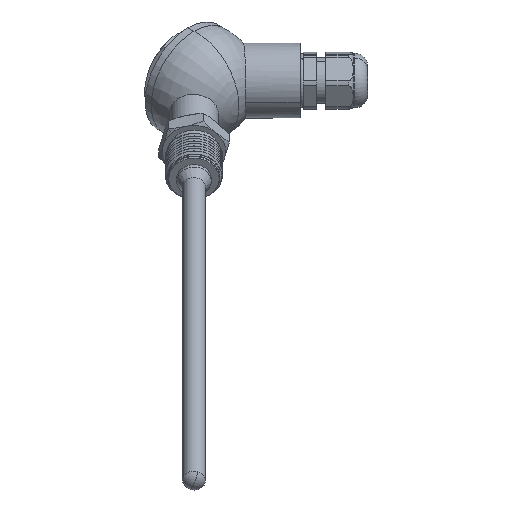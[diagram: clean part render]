
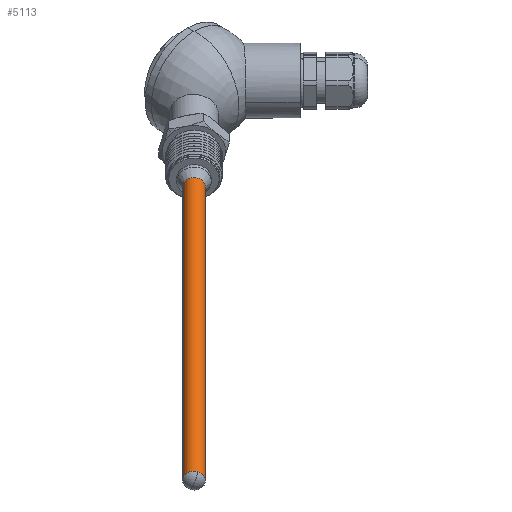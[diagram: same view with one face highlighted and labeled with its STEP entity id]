
A CAD part, isometric view. The second image highlights one B-rep face of the part: STEP entity #5113.
In plain terms, the highlighted cylindrical face has radius 4 mm (diameter 8 mm), a partial arc.
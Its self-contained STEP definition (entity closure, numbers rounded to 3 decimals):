
#19 = ORIENTED_EDGE ( 'NONE', *, *, #2163, .F. ) ;
#232 = DIRECTION ( 'NONE',  ( 1., 0., 0. ) ) ;
#431 = EDGE_CURVE ( 'NONE', #1237, #1639, #5102, .T. ) ;
#513 = DIRECTION ( 'NONE',  ( 0., 0., -1. ) ) ;
#582 = CARTESIAN_POINT ( 'NONE',  ( 0., 0., -4. ) ) ;
#626 = AXIS2_PLACEMENT_3D ( 'NONE', #1607, #232, #5866 ) ;
#837 = VERTEX_POINT ( 'NONE', #1942 ) ;
#903 = EDGE_CURVE ( 'NONE', #3453, #837, #3700, .T. ) ;
#1237 = VERTEX_POINT ( 'NONE', #4113 ) ;
#1439 = CARTESIAN_POINT ( 'NONE',  ( 0., 0., 0. ) ) ;
#1460 = VERTEX_POINT ( 'NONE', #4766 ) ;
#1468 = CIRCLE ( 'NONE', #3840, 4. ) ;
#1607 = CARTESIAN_POINT ( 'NONE',  ( -209.5, 0., 0. ) ) ;
#1639 = VERTEX_POINT ( 'NONE', #5400 ) ;
#1687 = ORIENTED_EDGE ( 'NONE', *, *, #4592, .T. ) ;
#1920 = DIRECTION ( 'NONE',  ( 1., 0., 0. ) ) ;
#1942 = CARTESIAN_POINT ( 'NONE',  ( -209.5, 0., -4. ) ) ;
#2015 = DIRECTION ( 'NONE',  ( 1., 0., 0. ) ) ;
#2163 = EDGE_CURVE ( 'NONE', #1639, #1460, #5924, .T. ) ;
#2426 = CARTESIAN_POINT ( 'NONE',  ( 0., 0., 4. ) ) ;
#2511 = ORIENTED_EDGE ( 'NONE', *, *, #6102, .T. ) ;
#2531 = CARTESIAN_POINT ( 'NONE',  ( -33., 0., 0. ) ) ;
#2710 = ORIENTED_EDGE ( 'NONE', *, *, #431, .F. ) ;
#2806 = LINE ( 'NONE', #582, #4631 ) ;
#2962 = EDGE_LOOP ( 'NONE', ( #2710, #2511, #4184, #1687, #19 ) ) ;
#2967 = DIRECTION ( 'NONE',  ( 1., 0., 0. ) ) ;
#2995 = DIRECTION ( 'NONE',  ( 0., 0., -1. ) ) ;
#3165 = AXIS2_PLACEMENT_3D ( 'NONE', #1439, #3306, #513 ) ;
#3306 = DIRECTION ( 'NONE',  ( 1., 0., 0. ) ) ;
#3453 = VERTEX_POINT ( 'NONE', #6002 ) ;
#3600 = FACE_OUTER_BOUND ( 'NONE', #2962, .T. ) ;
#3700 = CIRCLE ( 'NONE', #626, 4. ) ;
#3835 = VECTOR ( 'NONE', #2967, 1000. ) ;
#3840 = AXIS2_PLACEMENT_3D ( 'NONE', #4713, #1920, #5200 ) ;
#3935 = AXIS2_PLACEMENT_3D ( 'NONE', #2531, #5821, #2995 ) ;
#4113 = CARTESIAN_POINT ( 'NONE',  ( -209.5, 0., 4. ) ) ;
#4162 = CYLINDRICAL_SURFACE ( 'NONE', #3165, 4. ) ;
#4184 = ORIENTED_EDGE ( 'NONE', *, *, #903, .T. ) ;
#4592 = EDGE_CURVE ( 'NONE', #837, #1460, #2806, .T. ) ;
#4631 = VECTOR ( 'NONE', #2015, 1000. ) ;
#4713 = CARTESIAN_POINT ( 'NONE',  ( -209.5, 0., 0. ) ) ;
#4766 = CARTESIAN_POINT ( 'NONE',  ( -33., 0., -4. ) ) ;
#5102 = LINE ( 'NONE', #2426, #3835 ) ;
#5113 = ADVANCED_FACE ( 'NONE', ( #3600 ), #4162, .T. ) ;
#5200 = DIRECTION ( 'NONE',  ( 0., 0., -1. ) ) ;
#5400 = CARTESIAN_POINT ( 'NONE',  ( -33., 0., 4. ) ) ;
#5821 = DIRECTION ( 'NONE',  ( 1., 0., 0. ) ) ;
#5866 = DIRECTION ( 'NONE',  ( 0., 0., -1. ) ) ;
#5924 = CIRCLE ( 'NONE', #3935, 4. ) ;
#6002 = CARTESIAN_POINT ( 'NONE',  ( -209.5, -4., 0. ) ) ;
#6102 = EDGE_CURVE ( 'NONE', #1237, #3453, #1468, .T. ) ;
